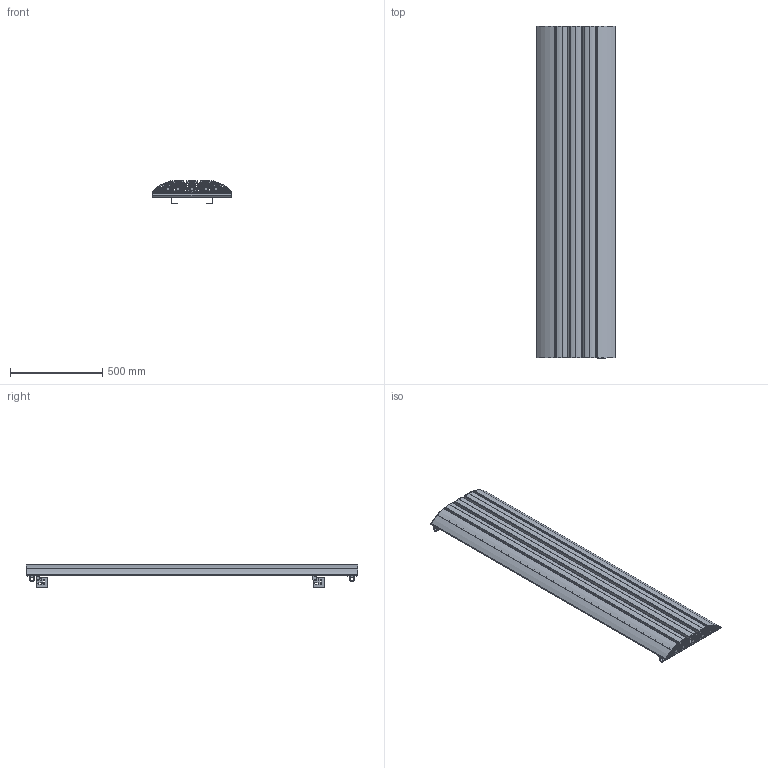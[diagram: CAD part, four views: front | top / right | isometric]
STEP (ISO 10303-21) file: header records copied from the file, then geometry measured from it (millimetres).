
FILE_DESCRIPTION (( 'STEP AP214' ), '1' );
FILE_NAME ('GAIA.STEP', '2020-07-01T05:02:37', ( 'termosan' ), ( '' ), 'SwSTEP 2.0', 'SolidWorks 2009', '' );
FILE_SCHEMA (( 'AUTOMOTIVE_DESIGN' ));
Length unit declared in the file: millimetre
Products named in the file (13): VESTA KAPAK_10608009; VESTA PROFÝL-1800_PK1000; NIXIE-1800_PK1000A01; üçgen kapak sað_10608012; üçgen kapak SOL_10608015; VÝZYON KOL.-355; L SAC ASKI VÝB PLASTÝÐÝ; SAC ASKI SAÐ VÝB.SÝZ; SAC ASKI SOL; sac aský-sol_3_2; YENÝ OMEGA; YENÝ OMEGA ASKI 20; GAIA
Assembly tree (27 placements, depth 3):
  GAIA
    VESTA PROFÝL-1800_PK1000  x3
    VÝZYON KOL.-355  x2
    NIXIE-1800_PK1000A01  x2
    VESTA KAPAK_10608009  x6
    üçgen kapak SOL_10608015  x2
    üçgen kapak sað_10608012  x2
    YENÝ OMEGA ASKI 20  x2
    L SAC ASKI VÝB PLASTÝÐÝ  x2
    SAC ASKI SOL  x2
      sac aský-sol_3_2
      YENÝ OMEGA
    SAC ASKI SAÐ VÝB.SÝZ  x2
Bounding box: 426.97 x 1800 x 130.1 mm (x, y, z)
Volume: 7831099.6 mm3; surface area: 7812936.8 mm2
Topology: 27 solids, 27 shells, 3089 faces, 8163 edges, 5158 vertices
Faces by surface type: cylinder 1080, plane 813, bspline 672, torus 360, cone 164
Entity records: 42200 total; most frequent: CARTESIAN_POINT 15945, ORIENTED_EDGE 5444, DIRECTION 5416, EDGE_CURVE 2722, AXIS2_PLACEMENT_3D 2083, VERTEX_POINT 1734, LINE 1250, VECTOR 1250
